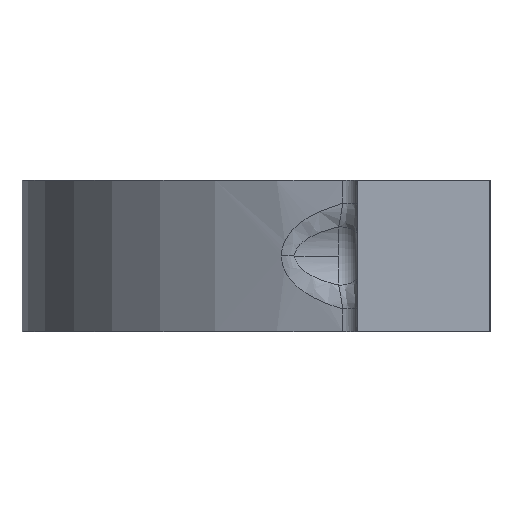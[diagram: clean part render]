
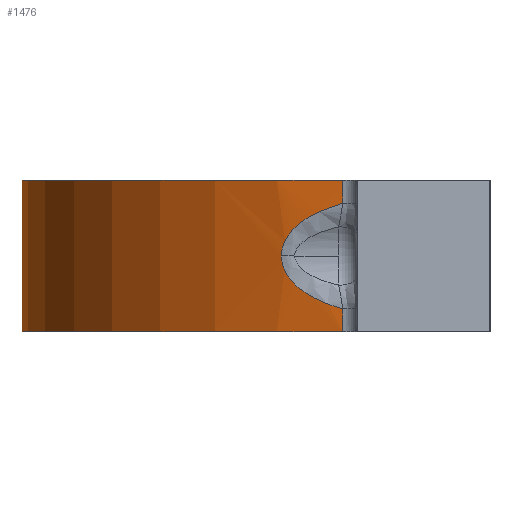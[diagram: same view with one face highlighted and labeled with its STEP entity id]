
A CAD part, left-side view. The second image highlights one B-rep face of the part: STEP entity #1476.
In plain terms, the highlighted cylindrical face has radius 21.25 mm (diameter 42.5 mm), a partial arc.
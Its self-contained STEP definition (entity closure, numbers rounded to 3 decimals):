
#681=CARTESIAN_POINT('Control Point',(19.87,7.533,4.)) ;
#682=CARTESIAN_POINT('Control Point',(19.87,7.533,3.835)) ;
#683=CARTESIAN_POINT('Control Point',(19.878,7.513,3.671)) ;
#684=CARTESIAN_POINT('Control Point',(19.893,7.474,3.512)) ;
#685=CARTESIAN_POINT('Control Point',(19.938,7.352,3.177)) ;
#686=CARTESIAN_POINT('Control Point',(20.005,7.169,2.885)) ;
#687=CARTESIAN_POINT('Control Point',(20.045,7.055,2.739)) ;
#688=CARTESIAN_POINT('Control Point',(20.136,6.795,2.452)) ;
#689=CARTESIAN_POINT('Control Point',(20.232,6.501,2.212)) ;
#690=CARTESIAN_POINT('Control Point',(20.283,6.34,2.096)) ;
#691=CARTESIAN_POINT('Control Point',(20.402,5.952,1.849)) ;
#692=CARTESIAN_POINT('Control Point',(20.516,5.543,1.647)) ;
#693=CARTESIAN_POINT('Control Point',(20.579,5.306,1.545)) ;
#694=CARTESIAN_POINT('Control Point',(20.664,4.963,1.413)) ;
#695=CARTESIAN_POINT('Control Point',(20.744,4.613,1.3)) ;
#696=CARTESIAN_POINT('Control Point',(20.767,4.509,1.268)) ;
#697=CARTESIAN_POINT('Control Point',(20.789,4.403,1.237)) ;
#698=CARTESIAN_POINT('Control Point',(20.811,4.298,1.208)) ;
#699=CARTESIAN_POINT('Vertex',(19.87,7.533,4.)) ;
#701=CARTESIAN_POINT('Vertex',(20.811,4.298,1.208)) ;
#803=CARTESIAN_POINT('Vertex',(20.811,4.298,6.792)) ;
#807=CARTESIAN_POINT('Control Point',(19.87,7.533,4.)) ;
#808=CARTESIAN_POINT('Control Point',(19.87,7.533,4.171)) ;
#809=CARTESIAN_POINT('Control Point',(19.878,7.511,4.341)) ;
#810=CARTESIAN_POINT('Control Point',(19.894,7.469,4.506)) ;
#811=CARTESIAN_POINT('Control Point',(19.949,7.322,4.895)) ;
#812=CARTESIAN_POINT('Control Point',(20.032,7.094,5.225)) ;
#813=CARTESIAN_POINT('Control Point',(20.087,6.938,5.402)) ;
#814=CARTESIAN_POINT('Control Point',(20.214,6.561,5.76)) ;
#815=CARTESIAN_POINT('Control Point',(20.346,6.139,6.041)) ;
#816=CARTESIAN_POINT('Control Point',(20.418,5.897,6.178)) ;
#817=CARTESIAN_POINT('Control Point',(20.546,5.437,6.405)) ;
#818=CARTESIAN_POINT('Control Point',(20.665,4.962,6.587)) ;
#819=CARTESIAN_POINT('Control Point',(20.716,4.742,6.662)) ;
#820=CARTESIAN_POINT('Control Point',(20.765,4.521,6.73)) ;
#821=CARTESIAN_POINT('Control Point',(20.811,4.298,6.792)) ;
#955=CARTESIAN_POINT('Vertex',(20.811,4.298,8.)) ;
#958=CARTESIAN_POINT('Line Origine',(20.811,4.298,7.396)) ;
#979=CARTESIAN_POINT('Vertex',(20.811,4.298,0.)) ;
#982=CARTESIAN_POINT('Line Origine',(20.811,4.298,0.604)) ;
#1013=CARTESIAN_POINT('Axis2P3D Location',(0.,0.,0.)) ;
#1017=CARTESIAN_POINT('Vertex',(-20.811,4.298,0.)) ;
#1058=CARTESIAN_POINT('Vertex',(-20.811,4.298,8.)) ;
#1068=CARTESIAN_POINT('Axis2P3D Location',(0.,0.,8.)) ;
#1301=CARTESIAN_POINT('Vertex',(-19.87,7.533,4.)) ;
#1305=CARTESIAN_POINT('Control Point',(-19.87,7.533,4.)) ;
#1306=CARTESIAN_POINT('Control Point',(-19.87,7.533,3.838)) ;
#1307=CARTESIAN_POINT('Control Point',(-19.877,7.513,3.676)) ;
#1308=CARTESIAN_POINT('Control Point',(-19.892,7.475,3.518)) ;
#1309=CARTESIAN_POINT('Control Point',(-19.934,7.363,3.206)) ;
#1310=CARTESIAN_POINT('Control Point',(-19.995,7.197,2.93)) ;
#1311=CARTESIAN_POINT('Control Point',(-20.03,7.099,2.797)) ;
#1312=CARTESIAN_POINT('Control Point',(-20.119,6.845,2.498)) ;
#1313=CARTESIAN_POINT('Control Point',(-20.215,6.554,2.25)) ;
#1314=CARTESIAN_POINT('Control Point',(-20.272,6.376,2.119)) ;
#1315=CARTESIAN_POINT('Control Point',(-20.397,5.971,1.858)) ;
#1316=CARTESIAN_POINT('Control Point',(-20.516,5.543,1.647)) ;
#1317=CARTESIAN_POINT('Control Point',(-20.579,5.306,1.545)) ;
#1318=CARTESIAN_POINT('Control Point',(-20.664,4.963,1.413)) ;
#1319=CARTESIAN_POINT('Control Point',(-20.744,4.613,1.3)) ;
#1320=CARTESIAN_POINT('Control Point',(-20.767,4.509,1.268)) ;
#1321=CARTESIAN_POINT('Control Point',(-20.789,4.403,1.237)) ;
#1322=CARTESIAN_POINT('Control Point',(-20.811,4.298,1.208)) ;
#1323=CARTESIAN_POINT('Vertex',(-20.811,4.298,1.208)) ;
#1414=CARTESIAN_POINT('Control Point',(-20.811,4.298,6.792)) ;
#1415=CARTESIAN_POINT('Control Point',(-20.786,4.416,6.759)) ;
#1416=CARTESIAN_POINT('Control Point',(-20.761,4.534,6.724)) ;
#1417=CARTESIAN_POINT('Control Point',(-20.735,4.652,6.688)) ;
#1418=CARTESIAN_POINT('Control Point',(-20.647,5.038,6.56)) ;
#1419=CARTESIAN_POINT('Control Point',(-20.551,5.418,6.41)) ;
#1420=CARTESIAN_POINT('Control Point',(-20.48,5.677,6.292)) ;
#1421=CARTESIAN_POINT('Control Point',(-20.37,6.059,6.09)) ;
#1422=CARTESIAN_POINT('Control Point',(-20.257,6.421,5.843)) ;
#1423=CARTESIAN_POINT('Control Point',(-20.219,6.54,5.754)) ;
#1424=CARTESIAN_POINT('Control Point',(-20.138,6.788,5.548)) ;
#1425=CARTESIAN_POINT('Control Point',(-20.06,7.014,5.309)) ;
#1426=CARTESIAN_POINT('Control Point',(-20.019,7.128,5.17)) ;
#1427=CARTESIAN_POINT('Control Point',(-19.948,7.325,4.876)) ;
#1428=CARTESIAN_POINT('Control Point',(-19.897,7.461,4.536)) ;
#1429=CARTESIAN_POINT('Control Point',(-19.879,7.509,4.362)) ;
#1430=CARTESIAN_POINT('Control Point',(-19.87,7.533,4.181)) ;
#1431=CARTESIAN_POINT('Control Point',(-19.87,7.533,4.)) ;
#1432=CARTESIAN_POINT('Vertex',(-20.811,4.298,6.792)) ;
#1449=CARTESIAN_POINT('Axis2P3D Location',(0.,0.,4.)) ;
#1454=CARTESIAN_POINT('Line Origine',(-20.811,4.298,4.)) ;
#1459=CARTESIAN_POINT('Line Origine',(-20.811,4.298,4.)) ;
#959=DIRECTION('Vector Direction',(0.,0.,1.)) ;
#983=DIRECTION('Vector Direction',(0.,0.,1.)) ;
#1014=DIRECTION('Axis2P3D Direction',(0.,0.,1.)) ;
#1069=DIRECTION('Axis2P3D Direction',(0.,0.,1.)) ;
#1450=DIRECTION('Axis2P3D Direction',(0.,0.,1.)) ;
#1451=DIRECTION('Axis2P3D XDirection',(0.979,0.202,0.)) ;
#1455=DIRECTION('Vector Direction',(0.,0.,1.)) ;
#1460=DIRECTION('Vector Direction',(0.,0.,1.)) ;
#1015=AXIS2_PLACEMENT_3D('Circle Axis2P3D',#1013,#1014,$) ;
#1070=AXIS2_PLACEMENT_3D('Circle Axis2P3D',#1068,#1069,$) ;
#1452=AXIS2_PLACEMENT_3D('Cylinder Axis2P3D',#1449,#1450,#1451) ;
#1465=ORIENTED_EDGE('',*,*,#1325,.F.) ;
#1466=ORIENTED_EDGE('',*,*,#1434,.F.) ;
#1467=ORIENTED_EDGE('',*,*,#1458,.T.) ;
#1468=ORIENTED_EDGE('',*,*,#1072,.F.) ;
#1469=ORIENTED_EDGE('',*,*,#962,.F.) ;
#1470=ORIENTED_EDGE('',*,*,#822,.T.) ;
#1471=ORIENTED_EDGE('',*,*,#703,.T.) ;
#1472=ORIENTED_EDGE('',*,*,#986,.F.) ;
#1473=ORIENTED_EDGE('',*,*,#1019,.T.) ;
#1474=ORIENTED_EDGE('',*,*,#1463,.T.) ;
#960=VECTOR('Line Direction',#959,1.) ;
#984=VECTOR('Line Direction',#983,1.) ;
#1456=VECTOR('Line Direction',#1455,1.) ;
#1461=VECTOR('Line Direction',#1460,1.) ;
#1476=ADVANCED_FACE('PartBody',(#1475),#1453,.T.) ;
#680=B_SPLINE_CURVE_WITH_KNOTS('',5,(#681,#682,#683,#684,#685,#686,#687,#688,#689,#690,#691,#692,#693,#694,#695,#696,#697,#698),.UNSPECIFIED.,.F.,.U.,(6,3,3,3,3,6),(0.,0.959,2.119,3.435,5.18,5.923),.UNSPECIFIED.) ;
#806=B_SPLINE_CURVE_WITH_KNOTS('',5,(#807,#808,#809,#810,#811,#812,#813,#814,#815,#816,#817,#818,#819,#820,#821),.UNSPECIFIED.,.F.,.U.,(6,3,3,3,6),(0.,0.995,2.479,4.351,5.924),.UNSPECIFIED.) ;
#1304=B_SPLINE_CURVE_WITH_KNOTS('',5,(#1305,#1306,#1307,#1308,#1309,#1310,#1311,#1312,#1313,#1314,#1315,#1316,#1317,#1318,#1319,#1320,#1321,#1322),.UNSPECIFIED.,.F.,.U.,(6,3,3,3,3,6),(39.493,40.44,41.47,42.929,44.674,45.417),.UNSPECIFIED.) ;
#1413=B_SPLINE_CURVE_WITH_KNOTS('',5,(#1414,#1415,#1416,#1417,#1418,#1419,#1420,#1421,#1422,#1423,#1424,#1425,#1426,#1427,#1428,#1429,#1430,#1431),.UNSPECIFIED.,.F.,.U.,(6,3,3,3,3,6),(40.229,41.063,42.988,43.963,45.096,46.152),.UNSPECIFIED.) ;
#1016=CIRCLE('generated circle',#1015,21.25) ;
#1071=CIRCLE('generated circle',#1070,21.25) ;
#1453=CYLINDRICAL_SURFACE('generated cylinder',#1452,21.25) ;
#703=EDGE_CURVE('',#700,#702,#680,.T.) ;
#822=EDGE_CURVE('',#804,#700,#806,.F.) ;
#962=EDGE_CURVE('',#804,#956,#961,.T.) ;
#986=EDGE_CURVE('',#980,#702,#985,.T.) ;
#1019=EDGE_CURVE('',#980,#1018,#1016,.T.) ;
#1072=EDGE_CURVE('',#956,#1059,#1071,.T.) ;
#1325=EDGE_CURVE('',#1302,#1324,#1304,.T.) ;
#1434=EDGE_CURVE('',#1433,#1302,#1413,.T.) ;
#1458=EDGE_CURVE('',#1433,#1059,#1457,.T.) ;
#1463=EDGE_CURVE('',#1018,#1324,#1462,.T.) ;
#1464=EDGE_LOOP('',(#1465,#1466,#1467,#1468,#1469,#1470,#1471,#1472,#1473,#1474)) ;
#1475=FACE_OUTER_BOUND('',#1464,.T.) ;
#961=LINE('Line',#958,#960) ;
#985=LINE('Line',#982,#984) ;
#1457=LINE('Line',#1454,#1456) ;
#1462=LINE('Line',#1459,#1461) ;
#700=VERTEX_POINT('',#699) ;
#702=VERTEX_POINT('',#701) ;
#804=VERTEX_POINT('',#803) ;
#956=VERTEX_POINT('',#955) ;
#980=VERTEX_POINT('',#979) ;
#1018=VERTEX_POINT('',#1017) ;
#1059=VERTEX_POINT('',#1058) ;
#1302=VERTEX_POINT('',#1301) ;
#1324=VERTEX_POINT('',#1323) ;
#1433=VERTEX_POINT('',#1432) ;
